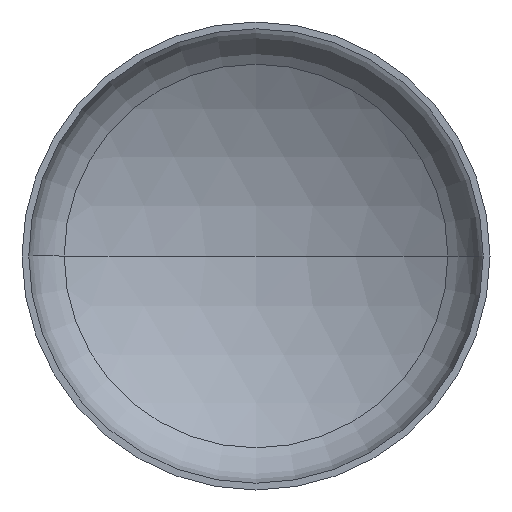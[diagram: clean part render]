
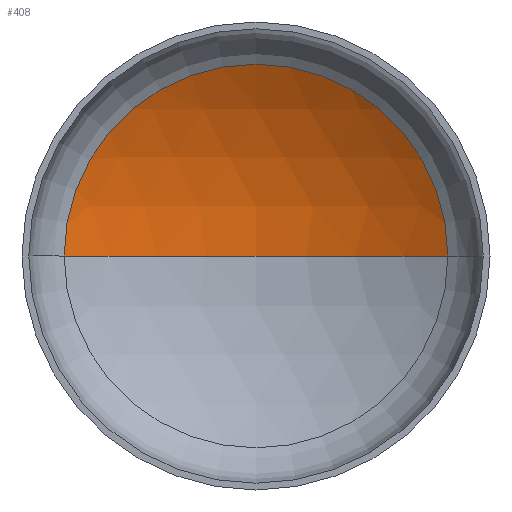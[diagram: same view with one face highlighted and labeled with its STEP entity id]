
A CAD part, front view. The second image highlights one B-rep face of the part: STEP entity #408.
In plain terms, the highlighted spherical face has radius 1600 mm.
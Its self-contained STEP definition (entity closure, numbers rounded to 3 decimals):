
#10 = VERTEX_POINT ( 'NONE', #290 ) ;
#11 = EDGE_LOOP ( 'NONE', ( #140, #121, #385 ) ) ;
#17 = AXIS2_PLACEMENT_3D ( 'NONE', #284, #170, #172 ) ;
#20 = DIRECTION ( 'NONE',  ( 1., 0., 0. ) ) ;
#24 = DIRECTION ( 'NONE',  ( 0., -1., 0. ) ) ;
#54 = AXIS2_PLACEMENT_3D ( 'NONE', #227, #179, #317 ) ;
#61 = AXIS2_PLACEMENT_3D ( 'NONE', #366, #24, #20 ) ;
#70 = VERTEX_POINT ( 'NONE', #261 ) ;
#80 = VERTEX_POINT ( 'NONE', #364 ) ;
#121 = ORIENTED_EDGE ( 'NONE', *, *, #138, .T. ) ;
#135 = EDGE_CURVE ( 'NONE', #70, #10, #222, .T. ) ;
#138 = EDGE_CURVE ( 'NONE', #80, #70, #162, .T. ) ;
#140 = ORIENTED_EDGE ( 'NONE', *, *, #348, .F. ) ;
#159 = CARTESIAN_POINT ( 'NONE',  ( 0., -1017.781, 0. ) ) ;
#162 = CIRCLE ( 'NONE', #54, 1600. ) ;
#170 = DIRECTION ( 'NONE',  ( 0., 0., 1. ) ) ;
#172 = DIRECTION ( 'NONE',  ( 1., 0., 0. ) ) ;
#179 = DIRECTION ( 'NONE',  ( 0., 0., -1. ) ) ;
#191 = AXIS2_PLACEMENT_3D ( 'NONE', #159, #256, #272 ) ;
#222 = CIRCLE ( 'NONE', #61, 819.845 ) ;
#227 = CARTESIAN_POINT ( 'NONE',  ( 0., -1017.781, 0. ) ) ;
#256 = DIRECTION ( 'NONE',  ( 0., 0., -1. ) ) ;
#261 = CARTESIAN_POINT ( 'NONE',  ( 819.845, 356.211, 0. ) ) ;
#272 = DIRECTION ( 'NONE',  ( -1., 0., 0. ) ) ;
#282 = SPHERICAL_SURFACE ( 'NONE', #191, 1600. ) ;
#284 = CARTESIAN_POINT ( 'NONE',  ( 0., -1017.781, 0. ) ) ;
#290 = CARTESIAN_POINT ( 'NONE',  ( -819.845, 356.211, 0. ) ) ;
#308 = CIRCLE ( 'NONE', #17, 1600. ) ;
#317 = DIRECTION ( 'NONE',  ( -1., 0., 0. ) ) ;
#348 = EDGE_CURVE ( 'NONE', #80, #10, #308, .T. ) ;
#364 = CARTESIAN_POINT ( 'NONE',  ( 0., 582.219, 0. ) ) ;
#366 = CARTESIAN_POINT ( 'NONE',  ( 0., 356.211, 0. ) ) ;
#385 = ORIENTED_EDGE ( 'NONE', *, *, #135, .T. ) ;
#404 = FACE_OUTER_BOUND ( 'NONE', #11, .T. ) ;
#408 = ADVANCED_FACE ( 'NONE', ( #404 ), #282, .F. ) ;
